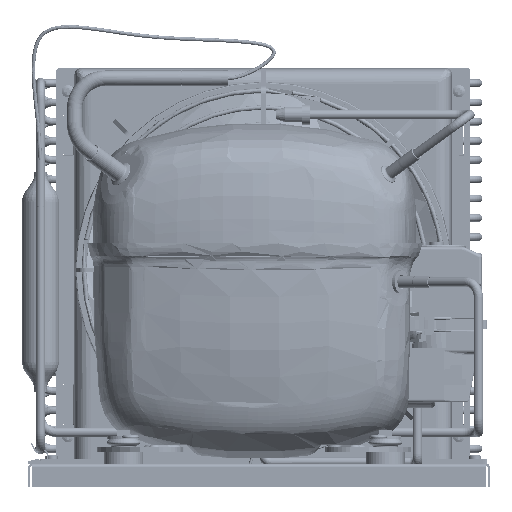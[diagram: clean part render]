
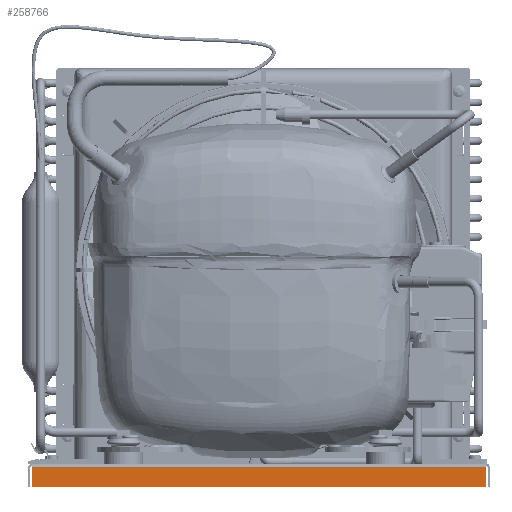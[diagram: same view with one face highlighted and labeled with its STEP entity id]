
A CAD part, front view. The second image highlights one B-rep face of the part: STEP entity #258766.
In plain terms, the highlighted planar face has unit normal (0, -1, 0).
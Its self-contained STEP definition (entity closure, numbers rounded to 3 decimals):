
#88145=ORIENTED_EDGE('',*,*,#149486,.F.);
#88146=ORIENTED_EDGE('',*,*,#149475,.F.);
#88147=ORIENTED_EDGE('',*,*,#149484,.T.);
#88148=ORIENTED_EDGE('',*,*,#149480,.T.);
#149475=EDGE_CURVE('',#180140,#180141,#200379,.T.);
#149480=EDGE_CURVE('',#180144,#180143,#200381,.T.);
#149484=EDGE_CURVE('',#180140,#180144,#200385,.T.);
#149486=EDGE_CURVE('',#180141,#180143,#200387,.T.);
#180140=VERTEX_POINT('',#336610);
#180141=VERTEX_POINT('',#336612);
#180143=VERTEX_POINT('',#336619);
#180144=VERTEX_POINT('',#336621);
#200379=LINE('',#336611,#211938);
#200381=LINE('',#336620,#211940);
#200385=LINE('',#336627,#211944);
#200387=LINE('',#336632,#211946);
#211938=VECTOR('',#289268,1000.);
#211940=VECTOR('',#289278,1000.);
#211944=VECTOR('',#289284,1000.);
#211946=VECTOR('',#289292,1000.);
#223485=EDGE_LOOP('',(#88145,#88146,#88147,#88148));
#238288=FACE_BOUND('',#223485,.T.);
#253026=PLANE('',#271254);
#258766=ADVANCED_FACE('',(#238288),#253026,.F.);
#271254=AXIS2_PLACEMENT_3D('',#336631,#289290,#289291);
#289268=DIRECTION('',(0.,0.,1.));
#289278=DIRECTION('',(0.,0.,1.));
#289284=DIRECTION('',(1.,0.,0.));
#289290=DIRECTION('',(0.,1.,0.));
#289291=DIRECTION('',(0.,0.,1.));
#289292=DIRECTION('',(1.,0.,0.));
#336610=CARTESIAN_POINT('',(-147.7,-190.,-7.5));
#336611=CARTESIAN_POINT('',(-147.7,-190.,7.5));
#336612=CARTESIAN_POINT('',(-147.7,-190.,5.2));
#336619=CARTESIAN_POINT('',(147.7,-190.,5.2));
#336620=CARTESIAN_POINT('',(147.7,-190.,7.5));
#336621=CARTESIAN_POINT('',(147.7,-190.,-7.5));
#336627=CARTESIAN_POINT('',(-150.,-190.,-7.5));
#336631=CARTESIAN_POINT('',(-150.,-190.,7.5));
#336632=CARTESIAN_POINT('',(-150.,-190.,5.2));
